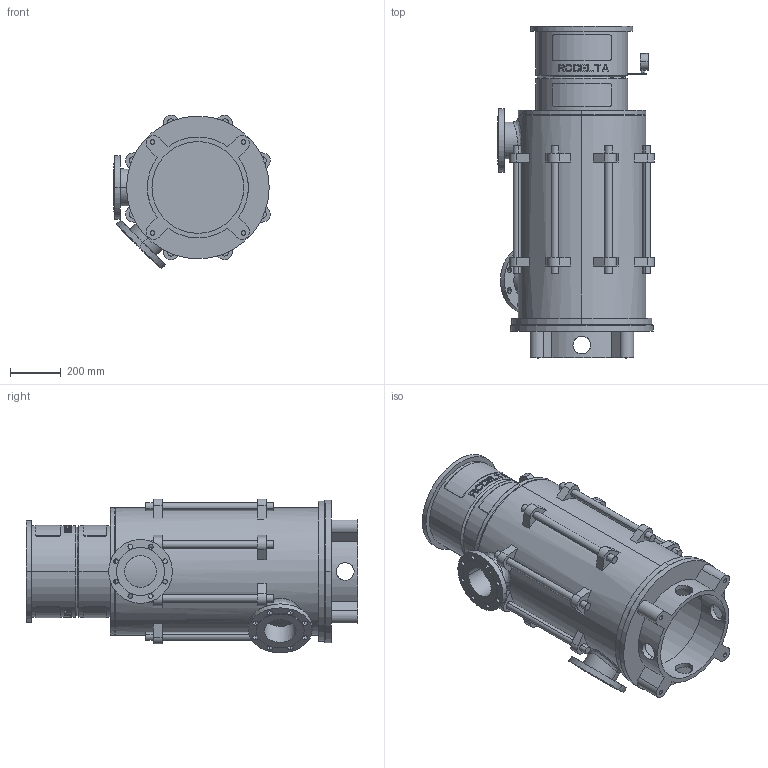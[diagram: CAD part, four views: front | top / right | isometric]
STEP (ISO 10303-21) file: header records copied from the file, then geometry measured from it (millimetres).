
FILE_DESCRIPTION((''),'2;1');
FILE_NAME('LS5_4TR_0GR_TOT_30KW','2023-08-08T',('Lyritlocal'),(''),'PRO/ENGINEER BY PARAMETRIC TECHNOLOGY CORPORATION, 2016360','PRO/ENGINEER BY PARAMETRIC TECHNOLOGY CORPORATION, 2016360','');
FILE_SCHEMA(('CONFIG_CONTROL_DESIGN'));
Length unit declared in the file: millimetre
Products named in the file (1): LS5_4TR_0GR_TOT_30KW
Bounding box: 614.04 x 1302 x 603.65 mm (x, y, z)
Volume: 37520269.1 mm3; surface area: 5384782.8 mm2
Topology: 3 solids, 7 shells, 672 faces, 1747 edges, 1158 vertices
Faces by surface type: plane 414, cylinder 242, cone 12, bspline 4
Entity records: 21980 total; most frequent: CARTESIAN_POINT 5536, ORIENTED_EDGE 3478, DIRECTION 3269, EDGE_CURVE 1747, AXIS2_PLACEMENT_3D 1241, VERTEX_POINT 1158, EDGE_LOOP 809, VECTOR 787
